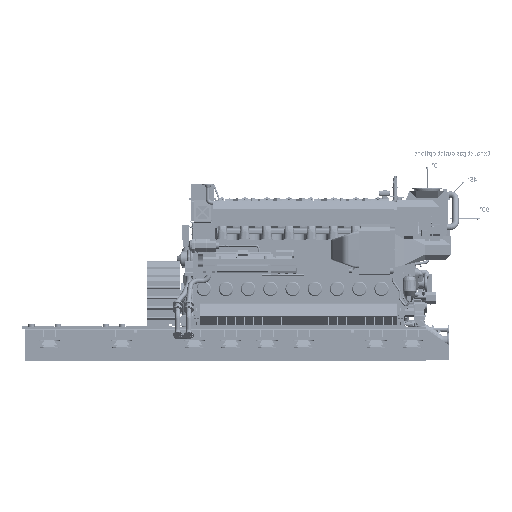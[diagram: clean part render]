
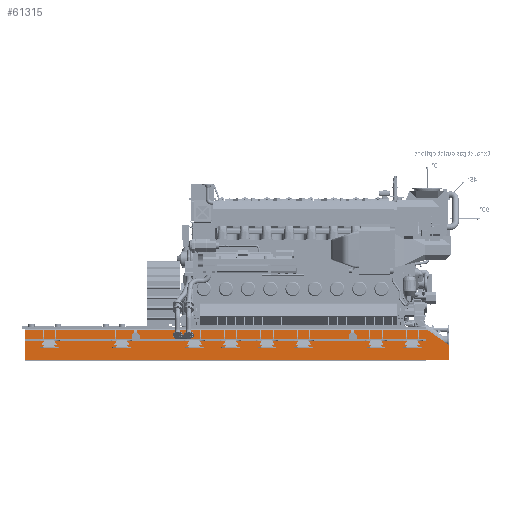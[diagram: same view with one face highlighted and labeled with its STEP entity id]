
A CAD part, front view. The second image highlights one B-rep face of the part: STEP entity #61315.
In plain terms, the highlighted planar face has unit normal (0, -1, 0).
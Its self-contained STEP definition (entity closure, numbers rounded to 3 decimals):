
#42856=FACE_OUTER_BOUND('',#171135,.T.);
#61315=ADVANCED_FACE('',(#42856),#76547,.F.);
#76547=PLANE('',#396152);
#102496=LINE('',#757088,#131335);
#102502=LINE('',#757104,#131341);
#102505=LINE('',#757110,#131344);
#102510=LINE('',#757120,#131349);
#102515=LINE('',#757129,#131354);
#102519=LINE('',#757136,#131358);
#102520=LINE('',#757138,#131359);
#102521=LINE('',#757140,#131360);
#102522=LINE('',#757141,#131361);
#131335=VECTOR('',#478688,1.);
#131341=VECTOR('',#478702,1.);
#131344=VECTOR('',#478707,1.);
#131349=VECTOR('',#478714,1.);
#131354=VECTOR('',#478719,1.);
#131358=VECTOR('',#478727,1.);
#131359=VECTOR('',#478728,1.);
#131360=VECTOR('',#478729,1.);
#131361=VECTOR('',#478730,1.);
#171135=EDGE_LOOP('',(#255354,#255355,#255356,#255357,#255358,#255359,#255360,
#255361,#255362,#255363));
#255354=ORIENTED_EDGE('',*,*,#347760,.F.);
#255355=ORIENTED_EDGE('',*,*,#347764,.T.);
#255356=ORIENTED_EDGE('',*,*,#347765,.T.);
#255357=ORIENTED_EDGE('',*,*,#347766,.T.);
#255358=ORIENTED_EDGE('',*,*,#347755,.F.);
#255359=ORIENTED_EDGE('',*,*,#347750,.F.);
#255360=ORIENTED_EDGE('',*,*,#347747,.F.);
#255361=ORIENTED_EDGE('',*,*,#347741,.F.);
#255362=ORIENTED_EDGE('',*,*,#347739,.F.);
#255363=ORIENTED_EDGE('',*,*,#347767,.T.);
#302058=VERTEX_POINT('',#757087);
#302059=VERTEX_POINT('',#757089);
#302060=VERTEX_POINT('',#757093);
#302063=VERTEX_POINT('',#757100);
#302066=VERTEX_POINT('',#757108);
#302071=VERTEX_POINT('',#757121);
#302074=VERTEX_POINT('',#757128);
#302075=VERTEX_POINT('',#757130);
#302076=VERTEX_POINT('',#757137);
#302077=VERTEX_POINT('',#757139);
#347739=EDGE_CURVE('',#302058,#302059,#102496,.T.);
#347741=EDGE_CURVE('',#302059,#302060,#367043,.T.);
#347747=EDGE_CURVE('',#302060,#302063,#102502,.T.);
#347750=EDGE_CURVE('',#302063,#302066,#102505,.T.);
#347755=EDGE_CURVE('',#302066,#302071,#102510,.T.);
#347760=EDGE_CURVE('',#302074,#302075,#102515,.T.);
#347764=EDGE_CURVE('',#302074,#302076,#102519,.T.);
#347765=EDGE_CURVE('',#302076,#302077,#102520,.T.);
#347766=EDGE_CURVE('',#302077,#302071,#102521,.T.);
#347767=EDGE_CURVE('',#302058,#302075,#102522,.T.);
#367043=CIRCLE('',#396145,30.);
#396145=AXIS2_PLACEMENT_3D('',#757092,#478692,#478693);
#396152=AXIS2_PLACEMENT_3D('',#757142,#478731,#478732);
#478688=DIRECTION('',(0.819,0.,-0.573));
#478692=DIRECTION('',(0.,1.,0.));
#478693=DIRECTION('',(-1.,0.,0.));
#478702=DIRECTION('',(0.,0.,-1.));
#478707=DIRECTION('',(-1.,0.,0.));
#478714=DIRECTION('',(0.,0.,1.));
#478719=DIRECTION('',(0.,0.,1.));
#478727=DIRECTION('',(1.,0.,0.));
#478728=DIRECTION('',(0.,0.,-1.));
#478729=DIRECTION('',(-1.,0.,0.));
#478730=DIRECTION('',(-1.,0.,0.));
#478731=DIRECTION('',(0.,1.,0.));
#478732=DIRECTION('',(0.,0.,-1.));
#757087=CARTESIAN_POINT('',(521.429,-1000.,-789.877));
#757088=CARTESIAN_POINT('',(500.,-1000.,-774.877));
#757089=CARTESIAN_POINT('',(987.204,-1000.,-1115.92));
#757092=CARTESIAN_POINT('',(970.,-1000.,-1140.497));
#757093=CARTESIAN_POINT('',(1000.,-1000.,-1140.497));
#757100=CARTESIAN_POINT('',(1000.,-1000.,-1451.877));
#757104=CARTESIAN_POINT('',(1000.,-1000.,-1140.497));
#757108=CARTESIAN_POINT('',(-8350.,-1000.,-1451.877));
#757110=CARTESIAN_POINT('',(500.,-1000.,-1451.877));
#757120=CARTESIAN_POINT('',(-8350.,-1000.,-1451.877));
#757121=CARTESIAN_POINT('',(-8350.,-1000.,-1014.877));
#757128=CARTESIAN_POINT('',(-8350.,-1000.,-1013.877));
#757129=CARTESIAN_POINT('',(-8350.,-1000.,-1451.877));
#757130=CARTESIAN_POINT('',(-8350.,-1000.,-789.877));
#757136=CARTESIAN_POINT('',(500.,-1000.,-1013.877));
#757137=CARTESIAN_POINT('',(500.,-1000.,-1013.877));
#757138=CARTESIAN_POINT('',(500.,-1000.,-989.877));
#757139=CARTESIAN_POINT('',(500.,-1000.,-1014.877));
#757140=CARTESIAN_POINT('',(-8350.,-1000.,-1014.877));
#757141=CARTESIAN_POINT('',(970.,-1000.,-789.877));
#757142=CARTESIAN_POINT('',(970.,-1000.,-1140.497));
